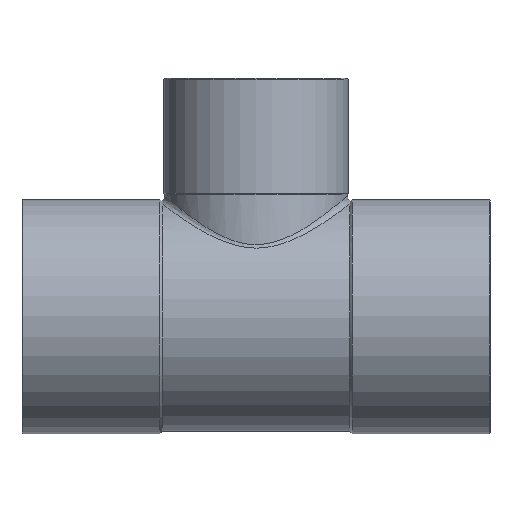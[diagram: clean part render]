
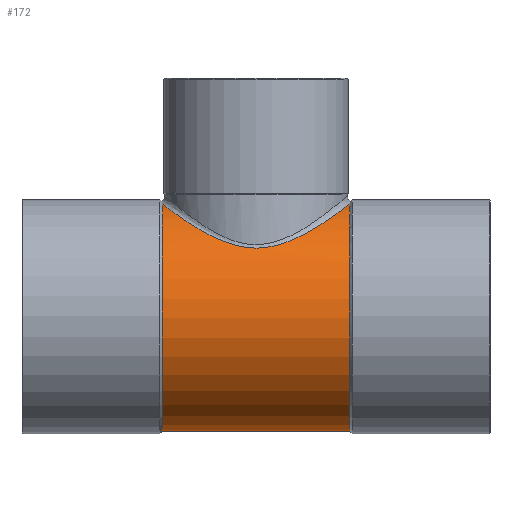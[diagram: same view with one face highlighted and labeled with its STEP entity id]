
A CAD part, top view. The second image highlights one B-rep face of the part: STEP entity #172.
In plain terms, the highlighted cylindrical face has radius 28 mm (diameter 56 mm), a partial arc.
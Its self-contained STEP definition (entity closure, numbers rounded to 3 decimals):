
#115=CARTESIAN_POINT('',(11.437,0.0,0.0));
#116=DIRECTION('',(1.0,0.0,0.0));
#117=DIRECTION('',(0.0,1.0,0.0));
#118=AXIS2_PLACEMENT_3D('',#115,#116,#117);
#119=CYLINDRICAL_SURFACE('',#118,28.);
#120=CARTESIAN_POINT('',(22.874,-28.,0.));
#121=VERTEX_POINT('',#120);
#122=CARTESIAN_POINT('',(-22.874,-28.,0.));
#123=VERTEX_POINT('',#122);
#124=CARTESIAN_POINT('',(22.874,-28.,0.));
#125=DIRECTION('',(-1.0,0.0,0.0));
#126=VECTOR('',#125,45.749);
#127=LINE('',#124,#126);
#128=EDGE_CURVE('',#121,#123,#127,.T.);
#129=ORIENTED_EDGE('',*,*,#128,.F.);
#130=CARTESIAN_POINT('',(22.874,27.409,5.721));
#131=VERTEX_POINT('',#130);
#132=CARTESIAN_POINT('',(22.874,0.0,0.0));
#133=DIRECTION('',(1.0,0.0,0.0));
#134=DIRECTION('',(0.0,1.0,0.0));
#135=AXIS2_PLACEMENT_3D('',#132,#133,#134);
#136=CIRCLE('',#135,28.);
#137=EDGE_CURVE('',#131,#121,#136,.T.);
#138=ORIENTED_EDGE('',*,*,#137,.F.);
#139=CARTESIAN_POINT('',(-22.874,27.409,5.721));
#140=VERTEX_POINT('',#139);
#141=CARTESIAN_POINT('',(-22.874,27.409,5.721));
#142=CARTESIAN_POINT('',(-21.872,26.651,9.355));
#143=CARTESIAN_POINT('',(-19.958,25.205,12.57));
#144=CARTESIAN_POINT('',(-17.516,23.557,15.134));
#145=CARTESIAN_POINT('',(-15.273,22.045,17.489));
#146=CARTESIAN_POINT('',(-12.576,20.331,19.347));
#147=CARTESIAN_POINT('',(-9.47,18.922,20.639));
#148=CARTESIAN_POINT('',(-6.76,17.691,21.767));
#149=CARTESIAN_POINT('',(-3.666,16.718,22.461));
#150=CARTESIAN_POINT('',(-0.453,16.639,22.52));
#151=CARTESIAN_POINT('',(2.761,16.56,22.578));
#152=CARTESIAN_POINT('',(5.931,17.407,21.988));
#153=CARTESIAN_POINT('',(8.703,18.584,20.943));
#154=CARTESIAN_POINT('',(13.533,20.636,19.123));
#155=CARTESIAN_POINT('',(17.46,23.458,15.988));
#156=CARTESIAN_POINT('',(20.185,25.421,11.738));
#157=CARTESIAN_POINT('',(21.35,26.26,9.92));
#158=CARTESIAN_POINT('',(22.277,26.957,7.888));
#159=CARTESIAN_POINT('',(22.874,27.409,5.721));
#160=B_SPLINE_CURVE_WITH_KNOTS('',3,(#141,#142,#143,#144,#145,#146,#147,#148,#149,#150,#151,#152,#153,#154,#155,#156,#157,#158,#159),.UNSPECIFIED.,.F.,.U.,(4,3,3,3,3,3,4),(4.144,5.243,6.252,7.133,8.013,9.548,10.205),.UNSPECIFIED.);
#161=EDGE_CURVE('',#140,#131,#160,.T.);
#162=ORIENTED_EDGE('',*,*,#161,.F.);
#163=CARTESIAN_POINT('',(-22.874,0.0,0.0));
#164=DIRECTION('',(1.0,0.0,0.0));
#165=DIRECTION('',(0.0,1.0,0.0));
#166=AXIS2_PLACEMENT_3D('',#163,#164,#165);
#167=CIRCLE('',#166,28.);
#168=EDGE_CURVE('',#140,#123,#167,.T.);
#169=ORIENTED_EDGE('',*,*,#168,.T.);
#170=EDGE_LOOP('',(#129,#138,#162,#169));
#171=FACE_OUTER_BOUND('',#170,.T.);
#172=ADVANCED_FACE('',(#171),#119,.T.);
